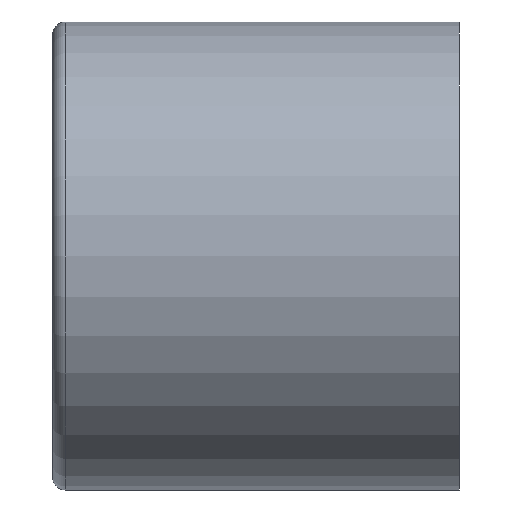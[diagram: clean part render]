
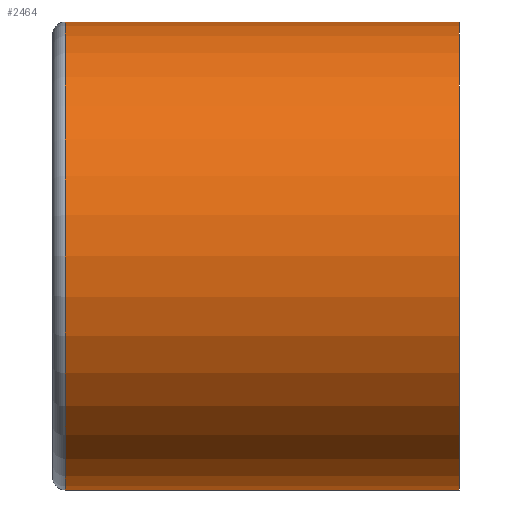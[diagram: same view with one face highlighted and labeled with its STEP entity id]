
A CAD part, left-side view. The second image highlights one B-rep face of the part: STEP entity #2464.
In plain terms, the highlighted cylindrical face has radius 18.4 mm (diameter 36.8 mm), a partial arc.
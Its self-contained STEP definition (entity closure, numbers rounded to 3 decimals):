
#660 = CARTESIAN_POINT ( 'NONE',  ( 0., -1., -18.4 ) ) ;
#661 = CARTESIAN_POINT ( 'NONE',  ( 0., -1., 18.4 ) ) ;
#759 = DIRECTION ( 'NONE',  ( 0., 0., -1. ) ) ;
#760 = DIRECTION ( 'NONE',  ( 0., -1., 0. ) ) ;
#761 = AXIS2_PLACEMENT_3D ( 'NONE', #764, #760, #759 ) ;
#762 = CIRCLE ( 'NONE', #761, 18.4 ) ;
#764 = CARTESIAN_POINT ( 'NONE',  ( 0., -1., 0. ) ) ;
#768 = CARTESIAN_POINT ( 'NONE',  ( 0., -32., -18.4 ) ) ;
#769 = CARTESIAN_POINT ( 'NONE',  ( 0., -45.075, 0. ) ) ;
#770 = CARTESIAN_POINT ( 'NONE',  ( 0., -32., 0. ) ) ;
#771 = FACE_OUTER_BOUND ( 'NONE', #2428, .T. ) ;
#831 = CARTESIAN_POINT ( 'NONE',  ( 0., -32., 18.4 ) ) ;
#832 = DIRECTION ( 'NONE',  ( 0., 0., 1. ) ) ;
#833 = DIRECTION ( 'NONE',  ( 0., -1., 0. ) ) ;
#834 = AXIS2_PLACEMENT_3D ( 'NONE', #770, #833, #832 ) ;
#835 = CIRCLE ( 'NONE', #834, 18.4 ) ;
#836 = DIRECTION ( 'NONE',  ( 0., 0., 1. ) ) ;
#837 = DIRECTION ( 'NONE',  ( 0., -1., 0. ) ) ;
#838 = AXIS2_PLACEMENT_3D ( 'NONE', #769, #837, #836 ) ;
#839 = CYLINDRICAL_SURFACE ( 'NONE', #838, 18.4 ) ;
#895 = DIRECTION ( 'NONE',  ( 0., -1., 0. ) ) ;
#896 = VECTOR ( 'NONE', #895, 1000. ) ;
#897 = CARTESIAN_POINT ( 'NONE',  ( 0., -45.075, 18.4 ) ) ;
#898 = LINE ( 'NONE', #897, #896 ) ;
#903 = DIRECTION ( 'NONE',  ( 0., -1., 0. ) ) ;
#904 = VECTOR ( 'NONE', #903, 1000. ) ;
#905 = CARTESIAN_POINT ( 'NONE',  ( 0., -45.075, -18.4 ) ) ;
#906 = LINE ( 'NONE', #905, #904 ) ;
#2401 = VERTEX_POINT ( 'NONE', #661 ) ;
#2402 = VERTEX_POINT ( 'NONE', #660 ) ;
#2422 = EDGE_CURVE ( 'NONE', #2401, #2402, #762, .T. ) ;
#2428 = EDGE_LOOP ( 'NONE', ( #2429, #2430, #2465, #2468 ) ) ;
#2429 = ORIENTED_EDGE ( 'NONE', *, *, #2422, .T. ) ;
#2430 = ORIENTED_EDGE ( 'NONE', *, *, #2431, .T. ) ;
#2431 = EDGE_CURVE ( 'NONE', #2402, #2432, #906, .T. ) ;
#2432 = VERTEX_POINT ( 'NONE', #768 ) ;
#2464 = ADVANCED_FACE ( 'NONE', ( #771 ), #839, .T. ) ;
#2465 = ORIENTED_EDGE ( 'NONE', *, *, #2466, .F. ) ;
#2466 = EDGE_CURVE ( 'NONE', #2467, #2432, #835, .T. ) ;
#2467 = VERTEX_POINT ( 'NONE', #831 ) ;
#2468 = ORIENTED_EDGE ( 'NONE', *, *, #2469, .F. ) ;
#2469 = EDGE_CURVE ( 'NONE', #2401, #2467, #898, .T. ) ;
